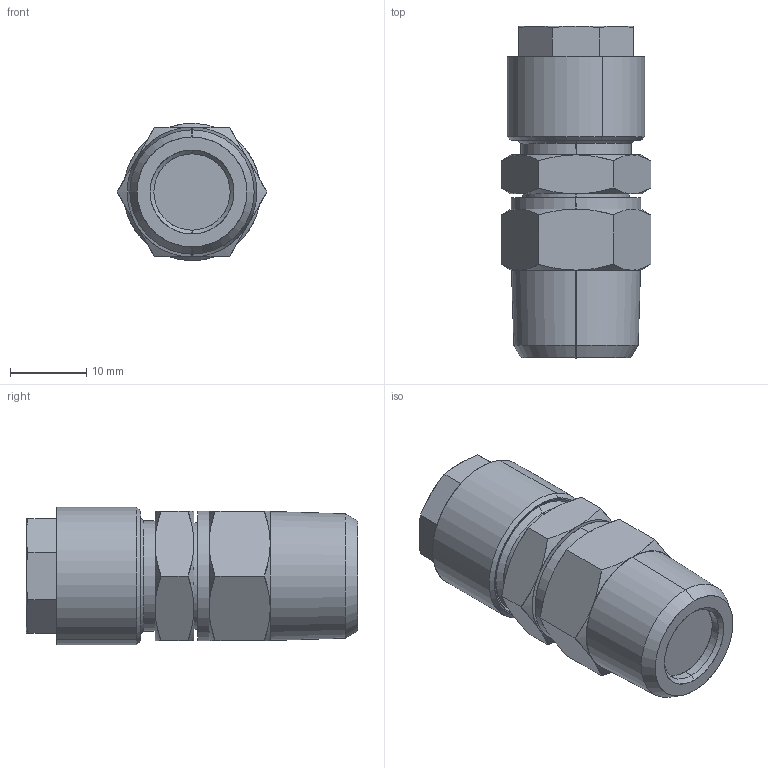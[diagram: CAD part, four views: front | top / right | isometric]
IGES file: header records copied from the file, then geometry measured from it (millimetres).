
Start section: SolidWorks IGES file using analytic representation for surfaces
Global section: file name: K:\Disegni Esecutivi\Serie 1000\Complessivi Serie 1000\1010\1010_IGES\0101000006A.IGS; native system: SolidWorks 2008; preprocessor: SolidWorks 2008; author: cad05; date: 090121.170511; units: millimetre
Bounding box: 19.63 x 43.5 x 18 mm (x, y, z)
Surface area: 3278.6 mm2 (no closed solid volume)
Topology: 0 solids, 0 shells, 96 faces, 1307 edges, 1307 vertices
Faces by surface type: revolution 61, bspline 35
